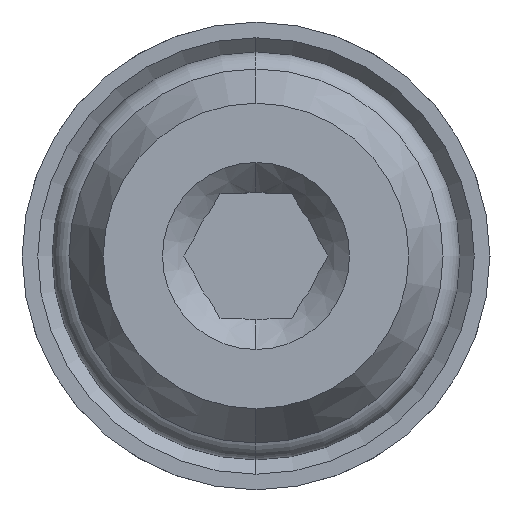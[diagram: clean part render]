
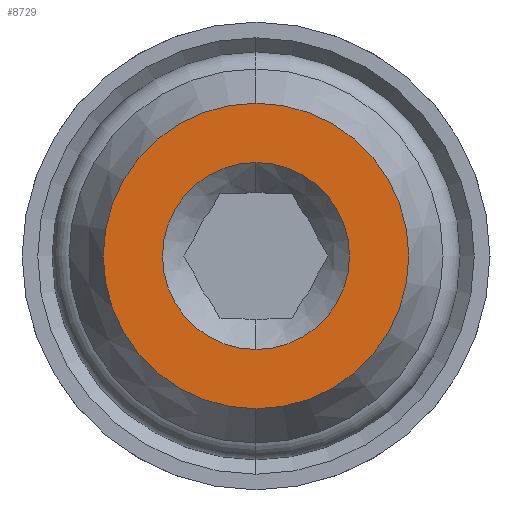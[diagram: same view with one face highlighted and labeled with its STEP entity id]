
A CAD part, front view. The second image highlights one B-rep face of the part: STEP entity #8729.
In plain terms, the highlighted planar face has unit normal (0, -1, 0).
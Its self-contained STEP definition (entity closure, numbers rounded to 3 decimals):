
#1785 = CARTESIAN_POINT ( 'NONE',  ( 0., 0., -4.9 ) ) ;
#1857 = CARTESIAN_POINT ( 'NONE',  ( 0., 0., 0. ) ) ;
#1858 = DIRECTION ( 'NONE',  ( 0., -1., 0. ) ) ;
#1859 = DIRECTION ( 'NONE',  ( 0., 0., -1. ) ) ;
#1860 = CARTESIAN_POINT ( 'NONE',  ( 0., 0., 0. ) ) ;
#1861 = DIRECTION ( 'NONE',  ( 0., -1., 0. ) ) ;
#1862 = DIRECTION ( 'NONE',  ( 0., 0., -1. ) ) ;
#2688 = CARTESIAN_POINT ( 'NONE',  ( 0., 0., 0. ) ) ;
#2689 = DIRECTION ( 'NONE',  ( 0., -1., 0. ) ) ;
#2690 = DIRECTION ( 'NONE',  ( 0., 0., -1. ) ) ;
#2699 = CARTESIAN_POINT ( 'NONE',  ( 0., 0., 0. ) ) ;
#2700 = DIRECTION ( 'NONE',  ( 0., -1., 0. ) ) ;
#2701 = DIRECTION ( 'NONE',  ( 0., 0., -1. ) ) ;
#3776 = VERTEX_POINT ( 'NONE', #5233 ) ;
#3777 = VERTEX_POINT ( 'NONE', #5232 ) ;
#3782 = VERTEX_POINT ( 'NONE', #5226 ) ;
#3805 = VERTEX_POINT ( 'NONE', #1785 ) ;
#3932 = CIRCLE ( 'NONE', #7119, 3. ) ;
#3933 = CIRCLE ( 'NONE', #7120, 4.9 ) ;
#4070 = AXIS2_PLACEMENT_3D ( 'NONE', #8129, #8130, #8131 ) ;
#4187 = FACE_BOUND ( 'NONE', #7543, .T. ) ;
#4188 = FACE_OUTER_BOUND ( 'NONE', #7545, .T. ) ;
#5226 = CARTESIAN_POINT ( 'NONE',  ( 0., 0., 4.9 ) ) ;
#5232 = CARTESIAN_POINT ( 'NONE',  ( 0., 0., 3. ) ) ;
#5233 = CARTESIAN_POINT ( 'NONE',  ( 0., 0., -3. ) ) ;
#7028 = EDGE_CURVE ( 'NONE', #3776, #3777, #3932, .T. ) ;
#7029 = EDGE_CURVE ( 'NONE', #3782, #3805, #3933, .T. ) ;
#7119 = AXIS2_PLACEMENT_3D ( 'NONE', #1857, #1858, #1859 ) ;
#7120 = AXIS2_PLACEMENT_3D ( 'NONE', #1860, #1861, #1862 ) ;
#7543 = EDGE_LOOP ( 'NONE', ( #8995, #8996 ) ) ;
#7545 = EDGE_LOOP ( 'NONE', ( #8997, #8998 ) ) ;
#7651 = EDGE_CURVE ( 'NONE', #3805, #3782, #8902, .T. ) ;
#7656 = EDGE_CURVE ( 'NONE', #3777, #3776, #8901, .T. ) ;
#8122 = PLANE ( 'NONE',  #4070 ) ;
#8129 = CARTESIAN_POINT ( 'NONE',  ( 0., 0., 0. ) ) ;
#8130 = DIRECTION ( 'NONE',  ( 0., -1., 0. ) ) ;
#8131 = DIRECTION ( 'NONE',  ( 0., 0., -1. ) ) ;
#8729 = ADVANCED_FACE ( 'NONE', ( #4187, #4188 ), #8122, .T. ) ;
#8901 = CIRCLE ( 'NONE', #9600, 3. ) ;
#8902 = CIRCLE ( 'NONE', #9598, 4.9 ) ;
#8995 = ORIENTED_EDGE ( 'NONE', *, *, #7028, .F. ) ;
#8996 = ORIENTED_EDGE ( 'NONE', *, *, #7656, .F. ) ;
#8997 = ORIENTED_EDGE ( 'NONE', *, *, #7029, .T. ) ;
#8998 = ORIENTED_EDGE ( 'NONE', *, *, #7651, .T. ) ;
#9598 = AXIS2_PLACEMENT_3D ( 'NONE', #2688, #2689, #2690 ) ;
#9600 = AXIS2_PLACEMENT_3D ( 'NONE', #2699, #2700, #2701 ) ;
